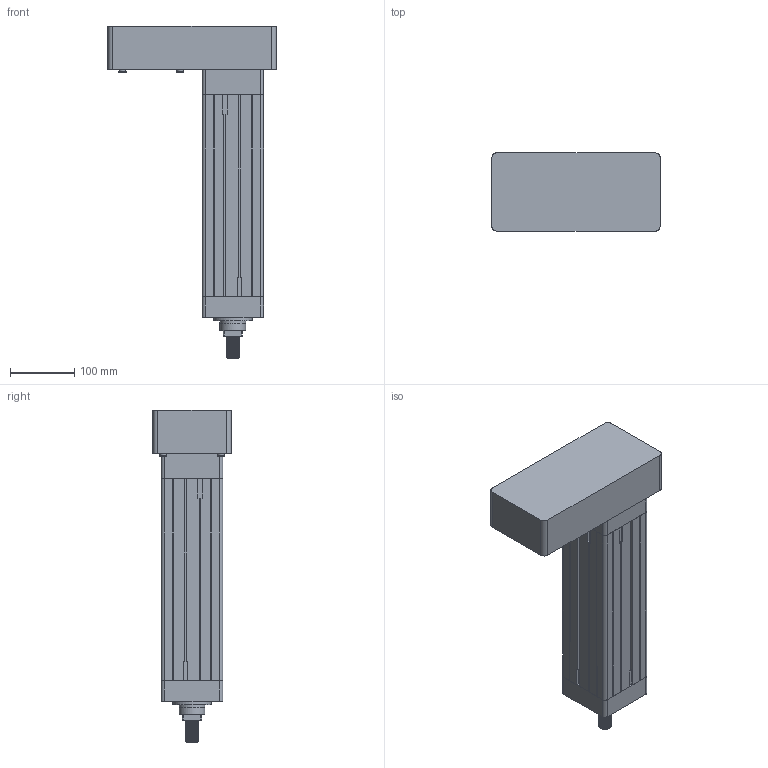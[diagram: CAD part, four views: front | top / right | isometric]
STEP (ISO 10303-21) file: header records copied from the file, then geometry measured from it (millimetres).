
FILE_DESCRIPTION( ('This file contains a STEP AP42 implementation' ,'as created by ZW3D STEP Interface translator.') ,'2;1' );
FILE_NAME( 'b3eef3dd-1a2e-46b2-9152-fd41f28761de.stp' ,'18 522. 85721', (''), ('ZWCAD Software Co.'), 'Version 1.0', 'ZW3D to STEP translator', '' );
FILE_SCHEMA( ('CONFIG_CONTROL_DESIGN') );
Length unit declared in the file: millimetre
Products named in the file (4): 0; TEB-80-D-C; TED-80-D-C; TEB80菁釱
Assembly tree (2 placements, depth 2):
  0
  TEB-80-D-C
    TED-80-D-C
    TEB80菁釱
Bounding box: 262 x 122 x 516.5 mm (x, y, z)
Volume: 5599712.6 mm3; surface area: 410881.8 mm2
Topology: 20 solids, 20 shells, 379 faces, 908 edges, 601 vertices
Faces by surface type: bspline 379
Entity records: 13888 total; most frequent: CARTESIAN_POINT 7868, ORIENTED_EDGE 1808, EDGE_CURVE 904, B_SPLINE_CURVE_WITH_KNOTS 684, VERTEX_POINT 601, EDGE_LOOP 439, FACE_OUTER_BOUND 379, ADVANCED_FACE 379
